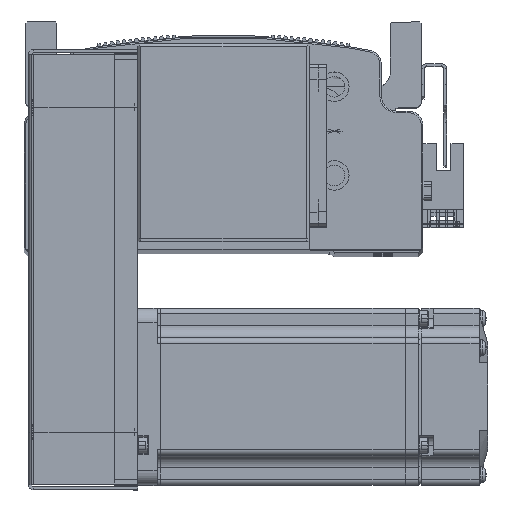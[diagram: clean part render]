
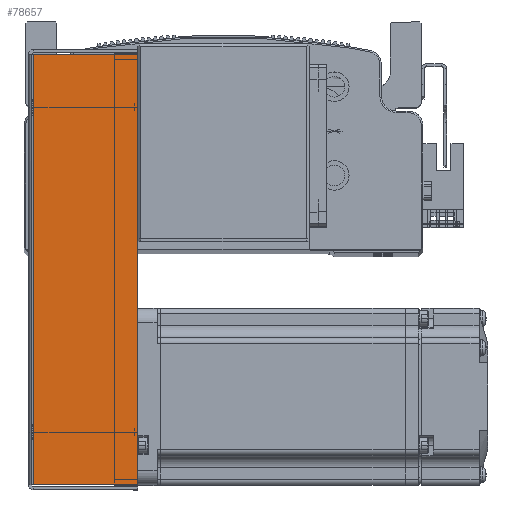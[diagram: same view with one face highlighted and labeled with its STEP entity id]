
A CAD part, top view. The second image highlights one B-rep face of the part: STEP entity #78657.
In plain terms, the highlighted planar face has unit normal (0, 0, 1) as drawn and (0, 0, -1) by its records, which use the part's own axes.
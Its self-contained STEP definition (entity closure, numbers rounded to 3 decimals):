
#9731 = EDGE_LOOP ( 'NONE', ( #48123, #48092, #48106, #48132 ) ) ;
#14522 = CARTESIAN_POINT ( 'NONE',  ( 72.793, 0.737, -34.5 ) ) ;
#14523 = CARTESIAN_POINT ( 'NONE',  ( 72.793, 36., -34.5 ) ) ;
#14541 = CARTESIAN_POINT ( 'NONE',  ( -72.793, 0.737, -34.5 ) ) ;
#14568 = CARTESIAN_POINT ( 'NONE',  ( -72.793, 36., -34.5 ) ) ;
#30647 = DIRECTION ( 'NONE',  ( 0., 0., 1. ) ) ;
#30648 = DIRECTION ( 'NONE',  ( 0., -1., 0. ) ) ;
#30659 = PLANE ( 'NONE',  #40694 ) ;
#30672 = CARTESIAN_POINT ( 'NONE',  ( 0., 0., -34.5 ) ) ;
#36591 = VECTOR ( 'NONE', #70647, 1000. ) ;
#36633 = LINE ( 'NONE', #70714, #36591 ) ;
#37674 = LINE ( 'NONE', #70821, #37764 ) ;
#37764 = VECTOR ( 'NONE', #70784, 1000. ) ;
#37830 = VECTOR ( 'NONE', #70377, 1000. ) ;
#37853 = LINE ( 'NONE', #70328, #37830 ) ;
#37865 = LINE ( 'NONE', #70552, #37894 ) ;
#37894 = VECTOR ( 'NONE', #70441, 1000. ) ;
#38571 = EDGE_CURVE ( 'NONE', #84547, #84524, #37853, .T. ) ;
#38585 = EDGE_CURVE ( 'NONE', #84528, #84547, #37865, .T. ) ;
#38603 = EDGE_CURVE ( 'NONE', #84528, #84521, #36633, .T. ) ;
#38613 = EDGE_CURVE ( 'NONE', #84521, #84524, #37674, .T. ) ;
#40694 = AXIS2_PLACEMENT_3D ( 'NONE', #30672, #30647, #30648 ) ;
#40996 = FACE_OUTER_BOUND ( 'NONE', #9731, .T. ) ;
#48092 = ORIENTED_EDGE ( 'NONE', *, *, #38585, .T. ) ;
#48106 = ORIENTED_EDGE ( 'NONE', *, *, #38571, .T. ) ;
#48123 = ORIENTED_EDGE ( 'NONE', *, *, #38603, .F. ) ;
#48132 = ORIENTED_EDGE ( 'NONE', *, *, #38613, .F. ) ;
#70328 = CARTESIAN_POINT ( 'NONE',  ( 0., 36., -34.5 ) ) ;
#70377 = DIRECTION ( 'NONE',  ( 1., 0., 0. ) ) ;
#70441 = DIRECTION ( 'NONE',  ( 0., 1., 0. ) ) ;
#70552 = CARTESIAN_POINT ( 'NONE',  ( -72.793, 0., -34.5 ) ) ;
#70647 = DIRECTION ( 'NONE',  ( 1., 0., 0. ) ) ;
#70714 = CARTESIAN_POINT ( 'NONE',  ( 74.5, 0.737, -34.5 ) ) ;
#70784 = DIRECTION ( 'NONE',  ( 0., 1., 0. ) ) ;
#70821 = CARTESIAN_POINT ( 'NONE',  ( 72.793, 0., -34.5 ) ) ;
#78657 = ADVANCED_FACE ( 'NONE', ( #40996 ), #30659, .F. ) ;
#84521 = VERTEX_POINT ( 'NONE', #14522 ) ;
#84524 = VERTEX_POINT ( 'NONE', #14523 ) ;
#84528 = VERTEX_POINT ( 'NONE', #14541 ) ;
#84547 = VERTEX_POINT ( 'NONE', #14568 ) ;
